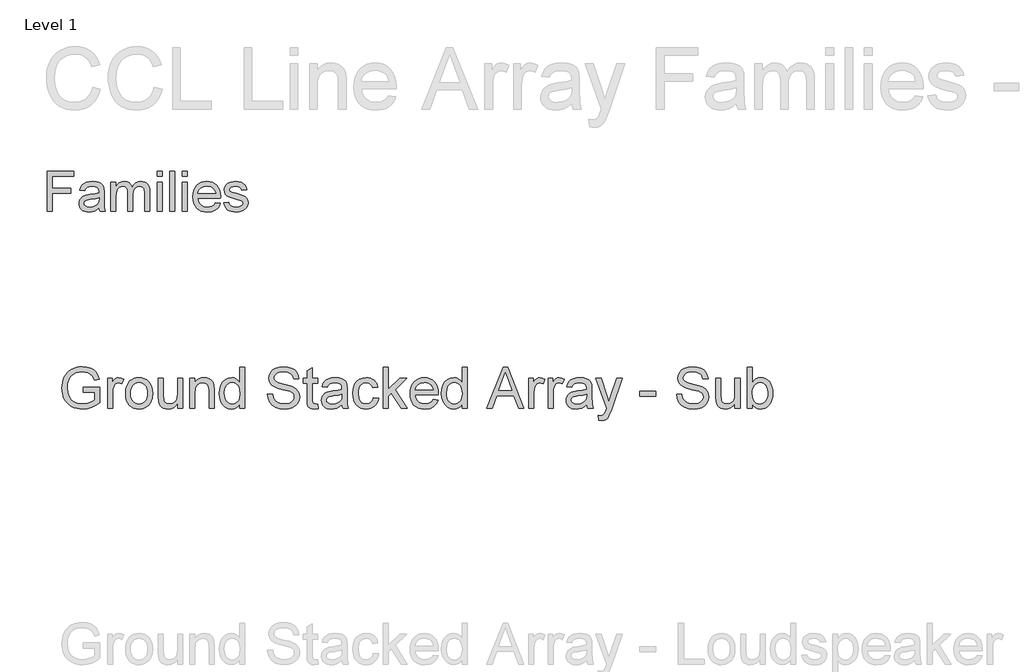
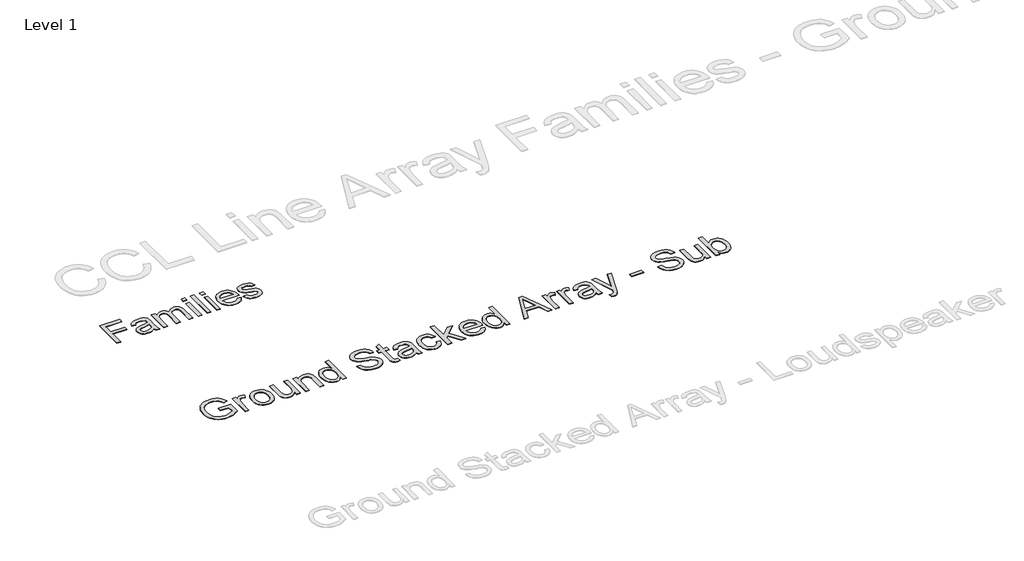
# One storey, part 7 of 31: 2 proxies.
"""IFC4 building model written with IfcOpenShell, lengths in millimetres."""

from ifc_helpers import new_model, si_unit, origin, origin_with_axes, place, context, project, spatial, polyline, outline, extrude, element, save

model = new_model("IFC4")

# Units and contexts
model_context = context("Model", 3, world=origin())
ifc_project = project(units=[si_unit("LENGTHUNIT", "METRE", prefix="MILLI")], contexts=[model_context])

# Site, building, storey
site = spatial("IfcSite", under=ifc_project)
building = spatial("IfcBuilding", under=site)
storey = spatial("IfcBuildingStorey", under=building, Name="Level 1", Elevation=0.0)

# Proxies
placement = place(None, origin())
element("IfcBuildingElementProxy", 1, Name="400mm Arial", ObjectType="400mm Arial", at=placement, inside=storey, context=model_context, shape_type="SweptSolid", body=[
    extrude(outline(polyline([(-21056.720891, -2671.3757633), (-21056.720891, -2279.6181875), (-20793.5087698, -2279.6181875), (-20793.5087698, -2328.5878845), (-21007.7511941, -2328.5878845), (-21007.7511941, -2444.8909148), (-20824.1148304, -2444.8909148), (-20824.1148304, -2493.8606118), (-21007.7511941, -2493.8606118), (-21007.7511941, -2671.3757633), (-21056.720891, -2671.3757633)])), origin_with_axes(), (0.0, 0.0, 1.0), 5.0),
    extrude(outline(polyline([(-20548.660285, -2634.6484906), (-20572.0571836, -2654.7098068), (-20596.1475009, -2667.8369375), (-20621.4811893, -2675.0819659), (-20648.6082016, -2677.4969754), (-20670.4120309, -2676.0443831), (-20689.5318522, -2671.6866061), (-20705.9676654, -2664.4236444), (-20719.7194706, -2654.2554981), (-20730.5780466, -2641.8277638), (-20738.3341723, -2627.7860379), (-20742.9878477, -2612.1303206), (-20744.5390729, -2594.8606118), (-20742.1957963, -2574.5601856), (-20735.1659668, -2556.1248163), (-20724.3223352, -2540.3435663), (-20710.5376524, -2528.0054981), (-20676.2493001, -2511.9373163), (-20633.879035, -2504.572733), (-20583.8094327, -2496.8255739), (-20548.9472168, -2487.7393996), (-20548.660285, -2476.8359906), (-20552.0317338, -2454.9813504), (-20562.1460804, -2440.6825815), (-20584.7658721, -2430.0661042), (-20616.2805501, -2426.5272784), (-20645.4519516, -2428.8825104), (-20665.8241107, -2435.9482065), (-20679.7163929, -2449.0155597), (-20689.4481638, -2469.3757633), (-20738.4178607, -2463.2545512), (-20729.9175056, -2436.4742481), (-20717.2327282, -2415.4325815), (-20699.1799346, -2399.3404887), (-20674.5755312, -2387.4089072), (-20644.4835568, -2380.0204129), (-20609.9680501, -2377.5575815), (-20576.8632916, -2379.7334811), (-20550.6209857, -2386.26118), (-20530.8346458, -2396.0766392), (-20517.097785, -2408.1158201), (-20507.9876997, -2423.0004082), (-20502.0816865, -2441.352089), (-20499.690588, -2484.2005739), (-20499.690588, -2545.1257633), (-20497.2038456, -2630.2010474), (-20487.4481638, -2671.3757633), (-20536.4178607, -2671.3757633), (-20544.2606638, -2654.3511421), (-20548.660285, -2634.6484906)]), holes=[polyline([(-20548.660285, -2536.7090966), (-20581.5618001, -2544.8627425), (-20627.6621789, -2551.7251951), (-20669.7933342, -2559.6636421), (-20680.7565208, -2565.0914356), (-20688.8743001, -2572.5755739), (-20693.8956069, -2581.5421932), (-20695.5693759, -2591.41743), (-20691.9229507, -2605.9792197), (-20680.9836751, -2617.9108012), (-20662.990659, -2625.8731591), (-20638.1830122, -2628.5272784), (-20611.8809289, -2625.5981828), (-20588.6394516, -2616.8108959), (-20569.7975956, -2603.8630976), (-20556.6943759, -2588.4524678), (-20550.8840066, -2572.5755739), (-20548.9472168, -2550.5774678), (-20548.660285, -2536.7090966)])]), origin_with_axes(), (0.0, 0.0, 1.0), 5.0),
    extrude(outline(polyline([(-20432.3572547, -2671.3757633), (-20432.3572547, -2383.6787936), (-20383.3875577, -2383.6787936), (-20383.3875577, -2431.0225436), (-20368.658391, -2409.2755029), (-20349.720891, -2392.2389262), (-20327.2206543, -2381.2279176), (-20301.8032774, -2377.5575815), (-20274.5686657, -2381.2996506), (-20252.7379365, -2392.525858), (-20236.4306448, -2410.4949631), (-20225.7663456, -2434.4657254), (-20207.9167954, -2409.5684124), (-20187.5565918, -2391.7846175), (-20164.6857348, -2381.1143405), (-20139.3042244, -2377.5575815), (-20119.7002057, -2379.0370737), (-20102.4932632, -2383.4755502), (-20087.683397, -2390.8730112), (-20075.2706069, -2401.2294565), (-20065.4581365, -2414.6644411), (-20058.4492291, -2431.2975199), (-20054.2438846, -2451.128693), (-20052.8421032, -2474.1579603), (-20052.8421032, -2671.3757633), (-20101.8118001, -2671.3757633), (-20101.8118001, -2495.1996269), (-20106.3548872, -2454.3118428), (-20112.7391202, -2443.0378135), (-20122.8056448, -2434.1787936), (-20135.7534431, -2428.4401572), (-20150.7814971, -2426.5272784), (-20177.3107348, -2431.4290303), (-20198.9382206, -2446.134286), (-20207.3279874, -2457.4142931), (-20213.320678, -2471.6473068), (-20218.1148304, -2508.9723542), (-20218.1148304, -2671.3757633), (-20267.0845274, -2671.3757633), (-20267.0845274, -2489.7479224), (-20269.9179791, -2462.0590019), (-20278.4183342, -2442.3085284), (-20293.3746552, -2430.4725909), (-20315.5760047, -2426.5272784), (-20334.4417717, -2429.1574868), (-20351.8250577, -2437.0481118), (-20366.1716486, -2450.0078656), (-20375.9273304, -2467.8454603), (-20381.5225009, -2492.5933296), (-20383.3875577, -2526.2839072), (-20383.3875577, -2671.3757633), (-20432.3572547, -2671.3757633)])), origin_with_axes(), (0.0, 0.0, 1.0), 5.0),
    extrude(outline(polyline([(-19979.3875577, -2328.5878845), (-19979.3875577, -2279.6181875), (-19930.4178607, -2279.6181875), (-19930.4178607, -2328.5878845), (-19979.3875577, -2328.5878845)])), origin_with_axes(), (0.0, 0.0, 1.0), 5.0),
    extrude(outline(polyline([(-19979.3875577, -2671.3757633), (-19979.3875577, -2383.6787936), (-19930.4178607, -2383.6787936), (-19930.4178607, -2671.3757633), (-19979.3875577, -2671.3757633)])), origin_with_axes(), (0.0, 0.0, 1.0), 5.0),
    extrude(outline(polyline([(-19856.9633153, -2671.3757633), (-19856.9633153, -2279.6181875), (-19807.9936183, -2279.6181875), (-19807.9936183, -2671.3757633), (-19856.9633153, -2671.3757633)])), origin_with_axes(), (0.0, 0.0, 1.0), 5.0),
    extrude(outline(polyline([(-19734.5390729, -2328.5878845), (-19734.5390729, -2279.6181875), (-19685.5693759, -2279.6181875), (-19685.5693759, -2328.5878845), (-19734.5390729, -2328.5878845)])), origin_with_axes(), (0.0, 0.0, 1.0), 5.0),
    extrude(outline(polyline([(-19734.5390729, -2671.3757633), (-19734.5390729, -2383.6787936), (-19685.5693759, -2383.6787936), (-19685.5693759, -2671.3757633), (-19734.5390729, -2671.3757633)])), origin_with_axes(), (0.0, 0.0, 1.0), 5.0),
    extrude(outline(polyline([(-19410.6886941, -2585.6787936), (-19362.6754365, -2591.8000057), (-19370.0370309, -2611.0304153), (-19379.975034, -2627.9773258), (-19392.4894457, -2642.6407372), (-19407.580266, -2655.0206496), (-19425.0920736, -2664.8540422), (-19444.8694469, -2671.877894), (-19491.220891, -2677.4969754), (-19521.605775, -2675.0729993), (-19548.6789876, -2667.801071), (-19572.4405288, -2655.6811906), (-19592.8903986, -2638.713358), (-19609.3351784, -2617.3698151), (-19621.0814497, -2592.122804), (-19628.1292125, -2562.9723246), (-19630.4784668, -2529.9183769), (-19628.1053015, -2495.7436018), (-19620.9858058, -2465.6217387), (-19609.1199796, -2439.5527874), (-19592.5078229, -2417.5367481), (-19572.1117528, -2400.0458627), (-19548.8941865, -2387.5523731), (-19522.855124, -2380.0562794), (-19493.9945653, -2377.5575815), (-19466.0635461, -2380.0503016), (-19440.8045795, -2387.5284621), (-19418.2176654, -2399.992063), (-19398.3028039, -2417.4411042), (-19382.0463231, -2439.4093215), (-19370.4345511, -2465.4304508), (-19363.4674879, -2495.504492), (-19361.1451335, -2529.6314451), (-19361.4320653, -2542.8303087), (-19581.5087698, -2542.8303087), (-19578.6723292, -2562.3715611), (-19573.0323257, -2579.4858485), (-19564.5887592, -2594.173171), (-19553.3416297, -2606.4335284), (-19524.9234242, -2623.0038409), (-19490.2644516, -2628.5272784), (-19464.2014782, -2625.9688031), (-19442.2511941, -2618.2933769), (-19424.4135994, -2605.0227803), (-19410.6886941, -2585.6787936)]), holes=[polyline([(-19581.5087698, -2493.8606118), (-19410.1148304, -2493.8606118), (-19416.7381732, -2467.9889262), (-19429.721838, -2449.4818239), (-19443.076123, -2439.4392103), (-19458.2715539, -2432.2659148), (-19494.1858532, -2426.5272784), (-19527.1949677, -2431.106232), (-19554.4893569, -2444.8430928), (-19573.4627234, -2466.2553798), (-19581.5087698, -2493.8606118)])]), origin_with_axes(), (0.0, 0.0, 1.0), 5.0),
    extrude(outline(polyline([(-19330.5390729, -2585.6787936), (-19281.5693759, -2579.5575815), (-19273.8461278, -2600.5036042), (-19258.9017622, -2615.9022784), (-19236.6406354, -2625.3710284), (-19206.9671032, -2628.5272784), (-19177.6522357, -2625.6340493), (-19157.0409668, -2616.9543618), (-19144.8463645, -2604.3771837), (-19140.7814971, -2589.791483), (-19144.8702755, -2577.3099489), (-19157.1366107, -2567.7933769), (-19207.5409668, -2553.8293618), (-19281.2824441, -2529.870555), (-19299.9449677, -2517.8313741), (-19313.4666297, -2501.8947027), (-19321.680053, -2483.0767576), (-19324.4178607, -2462.3937557), (-19322.2180501, -2443.4203892), (-19315.6186183, -2425.9055928), (-19305.2173399, -2410.5427851), (-19291.6119895, -2398.0253845), (-19260.4798872, -2383.5353277), (-19218.3487319, -2377.5575815), (-19186.4753891, -2379.9606354), (-19158.7625577, -2387.1697974), (-19136.4775198, -2398.4796932), (-19120.8875577, -2413.1849489), (-19110.5580122, -2432.3735142), (-19104.0542244, -2457.133339), (-19153.0239213, -2463.2545512), (-19159.2049109, -2447.8439214), (-19171.4353797, -2436.2351383), (-19189.8348825, -2428.9542434), (-19214.5229744, -2426.5272784), (-19242.6422925, -2428.846644), (-19261.3885047, -2435.8047406), (-19271.933249, -2445.8473542), (-19275.4481638, -2457.4202709), (-19269.6138835, -2471.6712178), (-19251.345891, -2482.478983), (-19209.1669138, -2492.9041724), (-19137.2904933, -2515.9543618), (-19118.3051713, -2526.9773258), (-19103.9107585, -2542.0651572), (-19094.8365397, -2561.2656781), (-19091.8118001, -2584.6267103), (-19095.3625814, -2608.776805), (-19106.0149251, -2631.4922406), (-19123.3623446, -2650.9916487), (-19146.9983532, -2665.493661), (-19175.5480691, -2674.4961468), (-19207.6366107, -2677.4969754), (-19233.9924938, -2676.0503608), (-19257.0127944, -2671.7105171), (-19276.6975127, -2664.4774442), (-19293.0466486, -2654.3511421), (-19306.4009336, -2641.3794328), (-19317.1010994, -2625.6101383), (-19325.1471458, -2607.0432585), (-19330.5390729, -2585.6787936)])), origin_with_axes(), (0.0, 0.0, 1.0), 5.0),
])
element("IfcBuildingElementProxy", 2, Name="400mm Arial", ObjectType="400mm Arial", at=placement, inside=storey, context=model_context, shape_type="SweptSolid", body=[
    extrude(outline(polyline([(-20704.1239476, -4440.554912), (-20704.1239476, -4390.3267569), (-20540.8824436, -4390.3267569), (-20540.8824436, -4540.5207128), (-20580.5523854, -4568.1118625), (-20621.473126, -4587.9039138), (-20663.5465635, -4599.8232904), (-20706.6745961, -4603.796416), (-20735.5257415, -4602.2175891), (-20763.021855, -4597.4811084), (-20789.1629364, -4589.5869739), (-20813.9489859, -4578.5351857), (-20836.5798599, -4564.4912905), (-20856.2554153, -4547.6208353), (-20872.975652, -4527.9238202), (-20886.74057, -4505.400245), (-20897.4919213, -4480.7705454), (-20905.1714579, -4454.755157), (-20909.7791799, -4427.3540797), (-20911.3150873, -4398.5673136), (-20905.1959834, -4341.9748), (-20897.5471036, -4315.1592683), (-20886.8386718, -4289.3308865), (-20873.2607605, -4265.6239576), (-20857.003442, -4245.1727844), (-20838.0667163, -4227.9773668), (-20816.4505834, -4214.0377048), (-20792.6240929, -4203.2648937), (-20767.0562942, -4195.5700287), (-20739.7471874, -4190.9531096), (-20710.6967725, -4189.4141366), (-20669.3223108, -4192.982592), (-20632.1171784, -4203.687958), (-20600.7858951, -4220.7576826), (-20577.032981, -4243.4192135), (-20559.4604843, -4272.763934), (-20546.6704536, -4309.8832273), (-20592.9745341, -4322.9307754), (-20603.3120182, -4296.4555345), (-20615.8813197, -4276.4795422), (-20632.5095858, -4261.4209058), (-20655.0239639, -4249.6977329), (-20681.8670869, -4242.156152), (-20711.4815875, -4239.6422917), (-20746.1483341, -4242.3523557), (-20775.7873602, -4250.4825478), (-20800.2883011, -4263.0150611), (-20819.5407922, -4278.9320888), (-20834.3173857, -4297.4120277), (-20845.3906337, -4317.6332747), (-20857.1628576, -4355.5496456), (-20861.0869322, -4396.5071744), (-20856.3657799, -4444.5403003), (-20842.2023231, -4484.0630893), (-20819.0257574, -4514.7934986), (-20787.2652785, -4536.4494854), (-20750.0969342, -4549.288567), (-20710.6967725, -4553.5682609), (-20675.9073985, -4550.3431621), (-20641.9764158, -4540.6678656), (-20612.509068, -4527.3382747), (-20591.1105986, -4513.1502924), (-20591.1105986, -4440.554912), (-20704.1239476, -4440.554912)])), origin_with_axes(), (0.0, 0.0, 1.0), 5.0),
    extrude(outline(polyline([(-20465.540211, -4597.5178966), (-20465.540211, -4302.4274855), (-20421.5905753, -4302.4274855), (-20421.5905753, -4346.0828156), (-20405.3547166, -4320.7725344), (-20390.3941821, -4305.8610508), (-20375.3845967, -4298.5769873), (-20359.0015852, -4296.1489662), (-20333.9856095, -4300.0239898), (-20308.5772264, -4311.6490609), (-20325.3526453, -4356.6778171), (-20343.0109811, -4348.9522952), (-20360.6693169, -4346.3771212), (-20375.6666395, -4348.8541933), (-20389.0698069, -4356.2854096), (-20399.8978003, -4368.1066844), (-20407.1696011, -4383.7539319), (-20413.2764422, -4411.8110654), (-20415.3120559, -4442.4188474), (-20415.3120559, -4597.5178966), (-20465.540211, -4597.5178966)])), origin_with_axes(), (0.0, 0.0, 1.0), 5.0),
    extrude(outline(polyline([(-20289.7416682, -4449.9726911), (-20287.0254728, -4411.7558831), (-20278.8768866, -4378.8243132), (-20265.2959096, -4351.1779813), (-20246.2825418, -4328.8168873), (-20227.1404154, -4314.5246718), (-20206.0117261, -4304.3159465), (-20182.8964741, -4298.1907112), (-20157.7946593, -4296.1489662), (-20130.083948, -4298.6352353), (-20105.0281184, -4306.0940428), (-20082.6271706, -4318.5253885), (-20062.8811045, -4335.9292726), (-20046.7648074, -4357.7170837), (-20035.2531667, -4383.3002108), (-20028.3461822, -4412.6786538), (-20026.0438541, -4445.8524127), (-20030.1150815, -4496.5956026), (-20042.3287637, -4535.2232121), (-20062.3292815, -4564.1509996), (-20089.7610156, -4585.7947237), (-20122.3430977, -4599.2959929), (-20157.7946593, -4603.796416), (-20185.9100407, -4601.3193439), (-20211.1988622, -4593.8881276), (-20233.6611237, -4581.5027671), (-20253.2968252, -4564.1632624), (-20269.241444, -4542.1639191), (-20280.6304575, -4515.7990427), (-20287.4638655, -4485.0686334), (-20289.7416682, -4449.9726911)]), holes=[polyline([(-20239.5135131, -4449.8745892), (-20238.0603792, -4474.2375743), (-20233.7009776, -4495.3325411), (-20226.4353082, -4513.1594894), (-20216.263371, -4527.7184194), (-20203.8902733, -4539.0277251), (-20190.021122, -4547.1058005), (-20174.6559174, -4551.9526458), (-20157.7946593, -4553.5682609), (-20141.0192403, -4551.9434488), (-20125.7153493, -4547.0690123), (-20111.8829863, -4538.9449516), (-20099.5221512, -4527.5712666), (-20089.3502141, -4512.8682495), (-20082.0845447, -4494.7561926), (-20077.725143, -4473.2350959), (-20076.2720091, -4448.3049594), (-20077.7343401, -4424.7145264), (-20082.1213329, -4404.1713827), (-20089.4329875, -4386.6755281), (-20099.669304, -4372.2269628), (-20112.0761243, -4360.9176571), (-20125.8992903, -4352.8395816), (-20141.1388019, -4347.9927363), (-20157.7946593, -4346.3771212), (-20174.6559174, -4347.986605), (-20190.021122, -4352.8150562), (-20203.8902733, -4360.8624748), (-20216.263371, -4372.1288609), (-20226.4353082, -4386.6448713), (-20233.7009776, -4404.4411628), (-20238.0603792, -4425.5177354), (-20239.5135131, -4449.8745892)])]), origin_with_axes(), (0.0, 0.0, 1.0), 5.0),
    extrude(outline(polyline([(-19781.1815981, -4597.5178966), (-19781.1815981, -4546.7992322), (-19799.3549686, -4571.7355001), (-19820.5204461, -4589.54712), (-19844.6780304, -4600.234092), (-19871.8277217, -4603.796416), (-19896.2918744, -4601.2948184), (-19919.0637699, -4593.7900257), (-19938.1691081, -4582.5083112), (-19951.6335892, -4568.6759482), (-19960.695749, -4551.8760037), (-19966.5941236, -4531.6915449), (-19969.5371796, -4484.995057), (-19969.5371796, -4302.4274855), (-19919.3090245, -4302.4274855), (-19919.3090245, -4461.3525075), (-19916.2678667, -4512.5616812), (-19908.947015, -4529.6436685), (-19896.402239, -4542.6299029), (-19879.4674044, -4550.8336714), (-19858.9763773, -4553.5682609), (-19837.3081278, -4550.7723578), (-19817.0378299, -4542.3846483), (-19800.3237245, -4529.1776846), (-19789.3240529, -4511.9240191), (-19783.2172118, -4488.2937322), (-19781.1815981, -4455.9569049), (-19781.1815981, -4302.4274855), (-19730.953443, -4302.4274855), (-19730.953443, -4597.5178966), (-19781.1815981, -4597.5178966)])), origin_with_axes(), (0.0, 0.0, 1.0), 5.0),
    extrude(outline(polyline([(-19661.8897298, -4597.5178966), (-19661.8897298, -4302.4274855), (-19611.6615747, -4302.4274855), (-19611.6615747, -4343.630269), (-19594.2117054, -4322.857199), (-19573.2546944, -4308.0192919), (-19548.7905417, -4299.1165476), (-19520.8192473, -4296.1489662), (-19496.0607891, -4298.5401991), (-19473.3869954, -4305.713898), (-19454.4778609, -4316.7748834), (-19441.0133799, -4330.8279756), (-19431.8776436, -4347.8363865), (-19425.9547435, -4367.7633279), (-19423.3059932, -4416.3237513), (-19423.3059932, -4597.5178966), (-19473.5341482, -4597.5178966), (-19473.5341482, -4423.09278), (-19474.9811507, -4397.1203111), (-19479.3221583, -4378.6526349), (-19487.3297231, -4365.4211459), (-19499.7763972, -4355.1572382), (-19515.7302131, -4348.5721505), (-19534.2592029, -4346.3771212), (-19563.6774998, -4351.30674), (-19588.7547891, -4366.0955962), (-19598.7765078, -4378.168257), (-19605.9348783, -4394.6677645), (-19610.2299006, -4415.5941186), (-19611.6615747, -4440.9473195), (-19611.6615747, -4597.5178966), (-19661.8897298, -4597.5178966)])), origin_with_axes(), (0.0, 0.0, 1.0), 5.0),
    extrude(outline(polyline([(-19172.1652178, -4597.5178966), (-19172.1652178, -4550.1346956), (-19187.1931973, -4573.6116983), (-19205.3972247, -4590.3809859), (-19226.7773, -4600.4425585), (-19251.3334231, -4603.796416), (-19283.8051406, -4598.9403737), (-19313.5300058, -4584.3722466), (-19338.6931343, -4561.1098418), (-19357.4796415, -4530.170966), (-19369.1782889, -4492.806418), (-19373.0778381, -4450.2669967), (-19369.4848573, -4408.2548728), (-19358.7059148, -4370.3139764), (-19340.7532734, -4338.6025484), (-19315.6391959, -4315.2788299), (-19285.2644058, -4300.9314321), (-19251.5296269, -4296.1489662), (-19226.9551096, -4299.5702687), (-19205.2255464, -4309.8341764), (-19186.8069212, -4325.567263), (-19172.1652178, -4345.3961026), (-19172.1652178, -4195.692656), (-19121.9370627, -4195.692656), (-19121.9370627, -4597.5178966), (-19172.1652178, -4597.5178966)]), holes=[polyline([(-19322.849683, -4450.0707929), (-19321.4333373, -4474.4276467), (-19317.1843003, -4495.5042193), (-19310.1025719, -4513.3005109), (-19300.1881521, -4527.8165213), (-19275.4910075, -4547.130326), (-19261.6157249, -4551.9587772), (-19246.7226355, -4553.5682609), (-19231.7590353, -4552.0323536), (-19217.9665262, -4547.4246316), (-19193.894781, -4528.9937436), (-19184.3880971, -4515.0847385), (-19177.5976086, -4497.9322405), (-19172.1652178, -4453.8967657), (-19177.6957104, -4405.7532753), (-19184.6088263, -4387.2181541), (-19194.2871884, -4372.3741156), (-19205.9889016, -4361.0004305), (-19218.9720703, -4352.8763698), (-19233.2366947, -4348.0019334), (-19248.7827746, -4346.3771212), (-19263.9701697, -4347.937554), (-19277.8454523, -4352.6188524), (-19290.4086224, -4360.4210164), (-19301.6596801, -4371.344046), (-19310.9303064, -4385.6270644), (-19317.5521823, -4403.5091951), (-19322.849683, -4450.0707929)])]), origin_with_axes(), (0.0, 0.0, 1.0), 5.0),
    extrude(outline(polyline([(-18902.1888843, -4459.3904702), (-18851.9607292, -4459.3904702), (-18846.1972446, -4487.2636627), (-18835.7739214, -4509.6676762), (-18819.5135372, -4527.4486393), (-18796.2388696, -4541.4526805), (-18767.7893287, -4550.5393658), (-18736.0043243, -4553.5682609), (-18708.0207672, -4551.2751298), (-18683.5198263, -4544.3957365), (-18663.6664613, -4533.5064294), (-18649.6256318, -4519.1835571), (-18641.2747105, -4502.7392319), (-18638.4910701, -4485.4855663), (-18640.5757348, -4468.6733592), (-18646.8297287, -4454.1420204), (-18659.5339202, -4441.7443971), (-18680.9691778, -4431.3333367), (-18754.1041185, -4412.154422), (-18802.1127188, -4399.4624931), (-18832.8308654, -4387.383701), (-18857.8345784, -4370.4856547), (-18875.5542278, -4350.0068903), (-18886.1124411, -4326.3888662), (-18889.6318455, -4300.0730408), (-18885.2785752, -4270.6547439), (-18872.2187644, -4243.2230098), (-18850.7957695, -4219.9728677), (-18821.3529472, -4203.0993468), (-18786.0117502, -4192.8354392), (-18746.8936314, -4189.4141366), (-18704.5136255, -4192.9948547), (-18667.4311204, -4203.737009), (-18636.9704912, -4221.4198702), (-18614.4561131, -4245.8227092), (-18600.2068172, -4275.4249471), (-18594.5414344, -4308.7060049), (-18644.7695895, -4308.7060049), (-18653.9911648, -4278.7358851), (-18662.3543489, -4266.8778221), (-18673.2191305, -4257.1044237), (-18703.2628267, -4244.0078247), (-18744.9315941, -4239.6422917), (-18787.58138, -4243.9587738), (-18803.8846838, -4249.3543764), (-18816.8402614, -4256.90822), (-18833.7628332, -4275.9645074), (-18839.4036904, -4298.6015128), (-18835.4060394, -4317.9030548), (-18823.4130864, -4333.427675), (-18795.0616473, -4347.309089), (-18741.3999269, -4361.4848085), (-18686.0214239, -4374.9492895), (-18652.5196369, -4386.6969879), (-18623.8861549, -4404.9194094), (-18603.9101626, -4427.409262), (-18592.1747269, -4453.9212912), (-18588.262915, -4484.2102421), (-18592.7633381, -4515.1736434), (-18606.2646073, -4544.2976346), (-18628.2148997, -4569.3626612), (-18658.0623923, -4588.1491685), (-18693.9554123, -4599.8846041), (-18734.042287, -4603.796416), (-18783.2526352, -4599.5780358), (-18823.7564429, -4586.9228951), (-18856.0196939, -4565.7819432), (-18880.508372, -4536.1061289), (-18896.2291959, -4499.9555915), (-18902.1888843, -4459.3904702)])), origin_with_axes(), (0.0, 0.0, 1.0), 5.0),
    extrude(outline(polyline([(-18412.4643723, -4555.6284001), (-18406.1858529, -4598.9894246), (-18443.7588673, -4603.796416), (-18467.8674008, -4601.7117514), (-18485.8445676, -4595.4577574), (-18498.5487592, -4585.8192492), (-18506.8383668, -4573.5810415), (-18511.4001035, -4552.5627168), (-18512.9206824, -4516.5838577), (-18512.9206824, -4352.6556406), (-18550.5917987, -4352.6556406), (-18550.5917987, -4302.4274855), (-18512.9206824, -4302.4274855), (-18512.9206824, -4230.715022), (-18462.6925274, -4201.1863605), (-18462.6925274, -4302.4274855), (-18412.4643723, -4302.4274855), (-18412.4643723, -4352.6556406), (-18462.6925274, -4352.6556406), (-18462.6925274, -4515.1123297), (-18460.043777, -4541.0112221), (-18451.4598638, -4550.1837466), (-18434.3410883, -4553.5682609), (-18412.4643723, -4555.6284001)])), origin_with_axes(), (0.0, 0.0, 1.0), 5.0),
    extrude(outline(polyline([(-18173.8806357, -4559.8467803), (-18197.8788045, -4580.4236466), (-18222.5882118, -4593.8881276), (-18248.5729434, -4601.3193439), (-18276.397085, -4603.796416), (-18298.7612446, -4602.3064939), (-18318.3724206, -4597.8367277), (-18335.2306131, -4590.3871173), (-18349.3358219, -4579.9576627), (-18360.4734493, -4567.2105516), (-18368.4288975, -4552.8079715), (-18373.2021663, -4536.7499224), (-18374.793256, -4519.0364043), (-18372.3897603, -4498.2142834), (-18365.1792732, -4479.3051488), (-18354.0569742, -4463.118341), (-18339.9180428, -4450.4632004), (-18323.3020394, -4440.8982685), (-18304.7485241, -4433.982087), (-18261.2893977, -4426.4282434), (-18209.9330712, -4418.4819923), (-18174.1749413, -4409.1623151), (-18173.8806357, -4397.9787024), (-18177.3387264, -4375.5624262), (-18187.7129987, -4360.8961973), (-18210.9140899, -4350.0068903), (-18243.2386545, -4346.3771212), (-18273.1597234, -4348.7928797), (-18294.0554208, -4356.040155), (-18308.3047167, -4369.4433223), (-18318.2865815, -4390.3267569), (-18368.5147366, -4384.0482375), (-18359.7959333, -4356.5797152), (-18346.7851734, -4334.9973049), (-18328.2684463, -4318.491666), (-18303.0317414, -4306.2534583), (-18272.1664421, -4298.6750892), (-18236.7639314, -4296.1489662), (-18202.8084232, -4298.3807836), (-18175.8917239, -4305.0762359), (-18155.5969005, -4315.1439398), (-18141.5070201, -4327.4925121), (-18132.1628174, -4342.7596149), (-18126.1050272, -4361.5829104), (-18123.6524806, -4405.5325461), (-18123.6524806, -4468.0234343), (-18121.1018321, -4555.2850436), (-18111.0954418, -4597.5178966), (-18161.3235969, -4597.5178966), (-18169.3679499, -4580.0557646), (-18173.8806357, -4559.8467803)]), holes=[polyline([(-18173.8806357, -4459.3904702), (-18207.6276774, -4467.7536542), (-18254.9127765, -4474.792463), (-18298.1266482, -4482.9349178), (-18309.3715745, -4488.5021987), (-18317.6979703, -4496.1786697), (-18322.8483183, -4505.3757195), (-18324.5651009, -4515.5047372), (-18320.8249673, -4530.4407462), (-18309.6045664, -4542.6789539), (-18291.149153, -4550.8459342), (-18265.7039817, -4553.5682609), (-18238.7259687, -4550.5638913), (-18214.8872154, -4541.5507824), (-18195.5611479, -4528.2702424), (-18182.1211924, -4512.4635793), (-18176.161504, -4496.1786697), (-18174.1749413, -4473.6152406), (-18173.8806357, -4459.3904702)])]), origin_with_axes(), (0.0, 0.0, 1.0), 5.0),
    extrude(outline(polyline([(-17866.2331858, -4490.7830671), (-17816.0050308, -4497.0615865), (-17821.4680784, -4520.762384), (-17830.009072, -4541.7347234), (-17841.6280117, -4559.9786047), (-17856.3248974, -4575.4940278), (-17873.4804611, -4587.8763227), (-17892.4754348, -4596.720819), (-17913.3098185, -4602.0275167), (-17935.9836121, -4603.796416), (-17964.1541759, -4601.3285409), (-17989.4123406, -4593.9249158), (-18011.7581061, -4581.5855405), (-18031.1914725, -4564.3104152), (-18046.9214935, -4542.4245021), (-18058.1572227, -4516.2527639), (-18064.8986603, -4485.7952004), (-18067.1458061, -4451.0518116), (-18063.3075707, -4406.3541492), (-18051.7928642, -4367.6161751), (-18032.4177458, -4336.3339428), (-18004.9982744, -4314.0035057), (-17972.1954632, -4300.612601), (-17936.6703252, -4296.1489662), (-17914.3858733, -4297.6818078), (-17894.2290057, -4302.2803327), (-17876.1997222, -4309.944541), (-17860.298023, -4320.6744325), (-17846.7936881, -4334.2247527), (-17835.9564976, -4350.3502468), (-17827.7864517, -4369.0509149), (-17822.2835501, -4390.3267569), (-17872.5117052, -4396.6052763), (-17881.622916, -4374.6917721), (-17895.8108983, -4358.9832109), (-17914.2908371, -4349.5286437), (-17936.2779177, -4346.3771212), (-17953.3445766, -4347.928357), (-17968.7373724, -4352.5820642), (-17982.4563052, -4360.338243), (-17994.5013748, -4371.1968932), (-18004.3084957, -4385.4094009), (-18011.313582, -4403.2271522), (-18015.5166338, -4424.6501471), (-18016.9176511, -4449.6783855), (-18011.4362093, -4496.7550181), (-18004.5844072, -4514.6923311), (-17994.9918842, -4528.8956418), (-17983.1859378, -4539.6899126), (-17969.6938656, -4547.4001061), (-17954.5156676, -4552.0262222), (-17937.6513438, -4553.5682609), (-17911.6420868, -4549.7177627), (-17890.3171938, -4538.1662681), (-17874.8048363, -4518.6194714), (-17866.2331858, -4490.7830671)])), origin_with_axes(), (0.0, 0.0, 1.0), 5.0),
    extrude(outline(polyline([(-17772.0553951, -4597.5178966), (-17772.0553951, -4195.692656), (-17721.82724, -4195.692656), (-17721.82724, -4411.6148617), (-17609.2062985, -4302.4274855), (-17539.7501779, -4302.4274855), (-17653.8426473, -4412.9882878), (-17533.4716585, -4597.5178966), (-17592.136574, -4597.5178966), (-17689.8460319, -4447.9125519), (-17721.82724, -4479.0108432), (-17721.82724, -4597.5178966), (-17772.0553951, -4597.5178966)])), origin_with_axes(), (0.0, 0.0, 1.0), 5.0),
    extrude(outline(polyline([(-17282.9194943, -4509.6186252), (-17233.6723579, -4515.8971446), (-17241.2231358, -4535.6217509), (-17251.4165328, -4553.0041752), (-17264.2525487, -4568.0444174), (-17279.7311837, -4580.7424776), (-17297.6930221, -4590.8285757), (-17317.9786484, -4598.0329314), (-17365.5212649, -4603.796416), (-17396.6870013, -4601.3101468), (-17424.4559606, -4593.8513394), (-17448.8281427, -4581.4199936), (-17469.8035478, -4564.0161096), (-17486.6709373, -4542.1240652), (-17498.7190727, -4516.2282384), (-17505.9479539, -4486.3286292), (-17508.3575809, -4452.4252377), (-17505.9234284, -4417.3722149), (-17498.6209708, -4386.4762587), (-17486.4502081, -4359.737369), (-17469.4111404, -4337.1555459), (-17448.4909176, -4319.2151673), (-17424.6766898, -4306.4006111), (-17397.9684569, -4298.7118774), (-17368.366219, -4296.1489662), (-17339.7174087, -4298.705746), (-17313.8093191, -4306.3760856), (-17290.6419505, -4319.159985), (-17270.2153027, -4337.057444), (-17253.5410513, -4359.5902162), (-17241.6308717, -4386.280055), (-17234.4847639, -4417.1269603), (-17232.102728, -4452.1309321), (-17232.3970336, -4465.6689895), (-17458.1294259, -4465.6689895), (-17455.2200924, -4485.7124269), (-17449.435148, -4503.2665294), (-17440.7745927, -4518.3312971), (-17429.2384265, -4530.90673), (-17415.4643115, -4540.8211498), (-17400.0899098, -4547.9028782), (-17364.5402463, -4553.5682609), (-17337.807488, -4550.944036), (-17315.2931099, -4543.0713613), (-17296.997112, -4529.4597275), (-17282.9194943, -4509.6186252)]), holes=[polyline([(-17458.1294259, -4415.4408345), (-17282.3308831, -4415.4408345), (-17289.1244373, -4388.9042799), (-17302.4417655, -4369.9215689), (-17316.1392385, -4359.6208731), (-17331.7251723, -4352.2632332), (-17349.1995671, -4347.8486492), (-17368.5624228, -4346.3771212), (-17402.4198291, -4351.073748), (-17430.4156489, -4365.1636285), (-17449.8766064, -4387.1261836), (-17458.1294259, -4415.4408345)])]), origin_with_axes(), (0.0, 0.0, 1.0), 5.0),
    extrude(outline(polyline([(-16999.7975108, -4597.5178966), (-16999.7975108, -4550.1346956), (-17014.8254903, -4573.6116983), (-17033.0295177, -4590.3809859), (-17054.409593, -4600.4425585), (-17078.9657162, -4603.796416), (-17111.4374336, -4598.9403737), (-17141.1622988, -4584.3722466), (-17166.3254273, -4561.1098418), (-17185.1119345, -4530.170966), (-17196.810582, -4492.806418), (-17200.7101311, -4450.2669967), (-17197.1171503, -4408.2548728), (-17186.3382078, -4370.3139764), (-17168.3855665, -4338.6025484), (-17143.2714889, -4315.2788299), (-17112.8966989, -4300.9314321), (-17079.1619199, -4296.1489662), (-17054.5874026, -4299.5702687), (-17032.8578394, -4309.8341764), (-17014.4392142, -4325.567263), (-16999.7975108, -4345.3961026), (-16999.7975108, -4195.692656), (-16949.5693557, -4195.692656), (-16949.5693557, -4597.5178966), (-16999.7975108, -4597.5178966)]), holes=[polyline([(-17150.481976, -4450.0707929), (-17149.0656303, -4474.4276467), (-17144.8165933, -4495.5042193), (-17137.7348649, -4513.3005109), (-17127.8204451, -4527.8165213), (-17103.1233005, -4547.130326), (-17089.2480179, -4551.9587772), (-17074.3549285, -4553.5682609), (-17059.3913283, -4552.0323536), (-17045.5988192, -4547.4246316), (-17021.527074, -4528.9937436), (-17012.0203901, -4515.0847385), (-17005.2299016, -4497.9322405), (-16999.7975108, -4453.8967657), (-17005.3280035, -4405.7532753), (-17012.2411193, -4387.2181541), (-17021.9194814, -4372.3741156), (-17033.6211946, -4361.0004305), (-17046.6043633, -4352.8763698), (-17060.8689877, -4348.0019334), (-17076.4150677, -4346.3771212), (-17091.6024627, -4347.937554), (-17105.4777453, -4352.6188524), (-17118.0409154, -4360.4210164), (-17129.2919731, -4371.344046), (-17138.5625994, -4385.6270644), (-17145.1844753, -4403.5091951), (-17150.481976, -4450.0707929)])]), origin_with_axes(), (0.0, 0.0, 1.0), 5.0),
    extrude(outline(polyline([(-16757.682107, -4597.5178966), (-16597.2855571, -4195.692656), (-16554.5131438, -4195.692656), (-16394.2146958, -4597.5178966), (-16447.287805, -4597.5178966), (-16493.199478, -4471.9475089), (-16658.7954267, -4471.9475089), (-16704.7070997, -4597.5178966), (-16757.682107, -4597.5178966)]), holes=[polyline([(-16640.352276, -4421.7193538), (-16511.5445268, -4421.7193538), (-16547.842217, -4322.9307754), (-16575.9974524, -4245.9208111), (-16601.013428, -4314.2978113), (-16640.352276, -4421.7193538)])]), origin_with_axes(), (0.0, 0.0, 1.0), 5.0),
    extrude(outline(polyline([(-16346.8314948, -4597.5178966), (-16346.8314948, -4302.4274855), (-16302.8818591, -4302.4274855), (-16302.8818591, -4346.0828156), (-16286.6460004, -4320.7725344), (-16271.6854659, -4305.8610508), (-16256.6758805, -4298.5769873), (-16240.292869, -4296.1489662), (-16215.2768934, -4300.0239898), (-16189.8685102, -4311.6490609), (-16206.6439292, -4356.6778171), (-16224.302265, -4348.9522952), (-16241.9606007, -4346.3771212), (-16256.9579234, -4348.8541933), (-16270.3610908, -4356.2854096), (-16281.1890842, -4368.1066844), (-16288.4608849, -4383.7539319), (-16294.567726, -4411.8110654), (-16296.6033398, -4442.4188474), (-16296.6033398, -4597.5178966), (-16346.8314948, -4597.5178966)])), origin_with_axes(), (0.0, 0.0, 1.0), 5.0),
    extrude(outline(polyline([(-16158.4759133, -4597.5178966), (-16158.4759133, -4302.4274855), (-16114.5262776, -4302.4274855), (-16114.5262776, -4346.0828156), (-16098.2904189, -4320.7725344), (-16083.3298844, -4305.8610508), (-16068.320299, -4298.5769873), (-16051.9372875, -4296.1489662), (-16026.9213118, -4300.0239898), (-16001.5129287, -4311.6490609), (-16018.2883477, -4356.6778171), (-16035.9466834, -4348.9522952), (-16053.6050192, -4346.3771212), (-16068.6023419, -4348.8541933), (-16082.0055092, -4356.2854096), (-16092.8335026, -4368.1066844), (-16100.1053034, -4383.7539319), (-16106.2121445, -4411.8110654), (-16108.2477582, -4442.4188474), (-16108.2477582, -4597.5178966), (-16158.4759133, -4597.5178966)])), origin_with_axes(), (0.0, 0.0, 1.0), 5.0),
    extrude(outline(polyline([(-15781.7647502, -4559.8467803), (-15805.7629191, -4580.4236466), (-15830.4723264, -4593.8881276), (-15856.457058, -4601.3193439), (-15884.2811996, -4603.796416), (-15906.6453592, -4602.3064939), (-15926.2565352, -4597.8367277), (-15943.1147276, -4590.3871173), (-15957.2199365, -4579.9576627), (-15968.3575639, -4567.2105516), (-15976.313012, -4552.8079715), (-15981.0862809, -4536.7499224), (-15982.6773705, -4519.0364043), (-15980.2738748, -4498.2142834), (-15973.0633877, -4479.3051488), (-15961.9410887, -4463.118341), (-15947.8021574, -4450.4632004), (-15931.1861539, -4440.8982685), (-15912.6326387, -4433.982087), (-15869.1735123, -4426.4282434), (-15817.8171858, -4418.4819923), (-15782.0590558, -4409.1623151), (-15781.7647502, -4397.9787024), (-15785.222841, -4375.5624262), (-15795.5971133, -4360.8961973), (-15818.7982044, -4350.0068903), (-15851.1227691, -4346.3771212), (-15881.043838, -4348.7928797), (-15901.9395353, -4356.040155), (-15916.1888313, -4369.4433223), (-15926.1706961, -4390.3267569), (-15976.3988512, -4384.0482375), (-15967.6800479, -4356.5797152), (-15954.669288, -4334.9973049), (-15936.1525609, -4318.491666), (-15910.915856, -4306.2534583), (-15880.0505566, -4298.6750892), (-15844.6480459, -4296.1489662), (-15810.6925378, -4298.3807836), (-15783.7758385, -4305.0762359), (-15763.4810151, -4315.1439398), (-15749.3911347, -4327.4925121), (-15740.046932, -4342.7596149), (-15733.9891418, -4361.5829104), (-15731.5365952, -4405.5325461), (-15731.5365952, -4468.0234343), (-15728.9859467, -4555.2850436), (-15718.9795564, -4597.5178966), (-15769.2077115, -4597.5178966), (-15777.2520644, -4580.0557646), (-15781.7647502, -4559.8467803)]), holes=[polyline([(-15781.7647502, -4459.3904702), (-15815.5117919, -4467.7536542), (-15862.796891, -4474.792463), (-15906.0107627, -4482.9349178), (-15917.2556891, -4488.5021987), (-15925.5820849, -4496.1786697), (-15930.7324328, -4505.3757195), (-15932.4492155, -4515.5047372), (-15928.7090818, -4530.4407462), (-15917.488681, -4542.6789539), (-15899.0332676, -4550.8459342), (-15873.5880962, -4553.5682609), (-15846.6100833, -4550.5638913), (-15822.77133, -4541.5507824), (-15803.4452625, -4528.2702424), (-15790.0053069, -4512.4635793), (-15784.0456186, -4496.1786697), (-15782.0590558, -4473.6152406), (-15781.7647502, -4459.3904702)])]), origin_with_axes(), (0.0, 0.0, 1.0), 5.0),
    extrude(outline(polyline([(-15662.4728819, -4710.5312455), (-15668.7514013, -4662.1670259), (-15643.2449163, -4666.5816098), (-15629.8294862, -4665.195921), (-15619.406163, -4661.0388544), (-15604.7889851, -4645.5878106), (-15591.0547239, -4608.6034074), (-15587.1306493, -4596.4387761), (-15693.8654789, -4302.4274855), (-15640.9885734, -4302.4274855), (-15584.2856952, -4466.3557026), (-15564.5672203, -4531.8877487), (-15544.8487453, -4473.9095462), (-15486.6743392, -4302.4274855), (-15434.1898412, -4302.4274855), (-15536.9024942, -4604.5812309), (-15563.5862016, -4670.113277), (-15577.2468864, -4691.0334998), (-15592.7224556, -4705.5280504), (-15610.675097, -4713.9893363), (-15631.7669981, -4716.8097649), (-15662.4728819, -4710.5312455)])), origin_with_axes(), (0.0, 0.0, 1.0), 5.0),
    extrude(outline(polyline([(-15260.6476413, -4478.2260283), (-15260.6476413, -4427.9978732), (-15103.6846567, -4427.9978732), (-15103.6846567, -4478.2260283), (-15260.6476413, -4478.2260283)])), origin_with_axes(), (0.0, 0.0, 1.0), 5.0),
    extrude(outline(polyline([(-14902.7720364, -4459.3904702), (-14852.5438814, -4459.3904702), (-14846.7803968, -4487.2636627), (-14836.3570736, -4509.6676762), (-14820.0966894, -4527.4486393), (-14796.8220218, -4541.4526805), (-14768.3724809, -4550.5393658), (-14736.5874765, -4553.5682609), (-14708.6039194, -4551.2751298), (-14684.1029785, -4544.3957365), (-14664.2496135, -4533.5064294), (-14650.208784, -4519.1835571), (-14641.8578627, -4502.7392319), (-14639.0742223, -4485.4855663), (-14641.1588869, -4468.6733592), (-14647.4128808, -4454.1420204), (-14660.1170724, -4441.7443971), (-14681.55233, -4431.3333367), (-14754.6872706, -4412.154422), (-14802.695871, -4399.4624931), (-14833.4140176, -4387.383701), (-14858.4177305, -4370.4856547), (-14876.13738, -4350.0068903), (-14886.6955932, -4326.3888662), (-14890.2149977, -4300.0730408), (-14885.8617274, -4270.6547439), (-14872.8019166, -4243.2230098), (-14851.3789217, -4219.9728677), (-14821.9360994, -4203.0993468), (-14786.5949023, -4192.8354392), (-14747.4767835, -4189.4141366), (-14705.0967777, -4192.9948547), (-14668.0142726, -4203.737009), (-14637.5536434, -4221.4198702), (-14615.0392653, -4245.8227092), (-14600.7899693, -4275.4249471), (-14595.1245866, -4308.7060049), (-14645.3527417, -4308.7060049), (-14654.574317, -4278.7358851), (-14662.937501, -4266.8778221), (-14673.8022826, -4257.1044237), (-14703.8459789, -4244.0078247), (-14745.5147462, -4239.6422917), (-14788.1645322, -4243.9587738), (-14804.4678359, -4249.3543764), (-14817.4234135, -4256.90822), (-14834.3459853, -4275.9645074), (-14839.9868426, -4298.6015128), (-14835.9891916, -4317.9030548), (-14823.9962385, -4333.427675), (-14795.6447994, -4347.309089), (-14741.9830791, -4361.4848085), (-14686.6045761, -4374.9492895), (-14653.102789, -4386.6969879), (-14624.4693071, -4404.9194094), (-14604.4933147, -4427.409262), (-14592.7578791, -4453.9212912), (-14588.8460672, -4484.2102421), (-14593.3464903, -4515.1736434), (-14606.8477595, -4544.2976346), (-14628.7980519, -4569.3626612), (-14658.6455444, -4588.1491685), (-14694.5385644, -4599.8846041), (-14734.6254392, -4603.796416), (-14783.8357874, -4599.5780358), (-14824.3395951, -4586.9228951), (-14856.602846, -4565.7819432), (-14881.0915242, -4536.1061289), (-14896.8123481, -4499.9555915), (-14902.7720364, -4459.3904702)])), origin_with_axes(), (0.0, 0.0, 1.0), 5.0),
    extrude(outline(polyline([(-14331.4267725, -4597.5178966), (-14331.4267725, -4546.7992322), (-14349.600143, -4571.7355001), (-14370.7656205, -4589.54712), (-14394.9232048, -4600.234092), (-14422.0728961, -4603.796416), (-14446.5370487, -4601.2948184), (-14469.3089442, -4593.7900257), (-14488.4142825, -4582.5083112), (-14501.8787635, -4568.6759482), (-14510.9409234, -4551.8760037), (-14516.839298, -4531.6915449), (-14519.782354, -4484.995057), (-14519.782354, -4302.4274855), (-14469.5541989, -4302.4274855), (-14469.5541989, -4461.3525075), (-14466.5130411, -4512.5616812), (-14459.1921894, -4529.6436685), (-14446.6474133, -4542.6299029), (-14429.7125788, -4550.8336714), (-14409.2215517, -4553.5682609), (-14387.5533022, -4550.7723578), (-14367.2830042, -4542.3846483), (-14350.5688989, -4529.1776846), (-14339.5692273, -4511.9240191), (-14333.4623862, -4488.2937322), (-14331.4267725, -4455.9569049), (-14331.4267725, -4302.4274855), (-14281.1986174, -4302.4274855), (-14281.1986174, -4597.5178966), (-14331.4267725, -4597.5178966)])), origin_with_axes(), (0.0, 0.0, 1.0), 5.0),
    extrude(outline(polyline([(-14161.9067491, -4597.5178966), (-14212.1349041, -4597.5178966), (-14212.1349041, -4195.692656), (-14161.9067491, -4195.692656), (-14161.9067491, -4344.7093895), (-14145.3888475, -4323.4642043), (-14126.7372303, -4308.289072), (-14105.9518976, -4299.1839926), (-14083.0328493, -4296.1489662), (-14057.1584823, -4298.8835557), (-14032.7065924, -4307.0873241), (-14011.0751311, -4320.2452368), (-13993.6620499, -4337.8422589), (-13980.0136279, -4359.7067122), (-13969.6761439, -4385.6669183), (-13963.1646325, -4414.6437568), (-13960.9941288, -4445.5581071), (-13963.2412746, -4481.2303979), (-13969.9827122, -4512.6107321), (-13981.2184415, -4539.6991097), (-13996.9484624, -4562.4955307), (-14015.8300058, -4580.564668), (-14036.5203024, -4593.4711947), (-14059.0193521, -4601.2151107), (-14083.3271549, -4603.796416), (-14107.0003613, -4600.4670839), (-14127.9880291, -4590.4790878), (-14146.2901584, -4573.8324275), (-14161.9067491, -4550.5271031), (-14161.9067491, -4597.5178966)]), holes=[polyline([(-14161.9067491, -4447.9125519), (-14158.4731838, -4489.8020484), (-14148.1724879, -4518.1534875), (-14136.0017252, -4533.6474509), (-14121.8566625, -4544.7145676), (-14105.7372998, -4551.3548376), (-14087.643637, -4553.5682609), (-14072.6217888, -4551.9373174), (-14058.6545358, -4547.0444869), (-14045.7418777, -4538.8897693), (-14033.8838148, -4527.4731647), (-14023.969395, -4512.82533), (-14016.8876666, -4494.9769218), (-14012.6386295, -4473.9279403), (-14011.2222838, -4449.6783855), (-14016.6546746, -4403.7176615), (-14023.4451631, -4385.9244357), (-14032.951847, -4371.5893006), (-14044.38378, -4360.5589721), (-14056.9500158, -4352.6801661), (-14070.6505545, -4347.9528824), (-14085.4853959, -4346.3771212), (-14100.5072441, -4348.0080647), (-14114.4744972, -4352.9008953), (-14127.3871552, -4361.0556128), (-14139.2452182, -4372.4722174), (-14149.1596379, -4386.9728994), (-14156.2413663, -4404.3798491), (-14160.4904034, -4424.6930666), (-14161.9067491, -4447.9125519)])]), origin_with_axes(), (0.0, 0.0, 1.0), 5.0),
])

save(model, "model.ifc")
